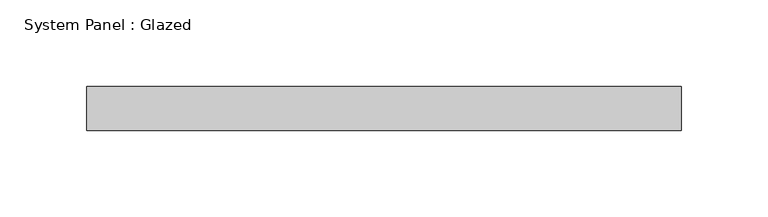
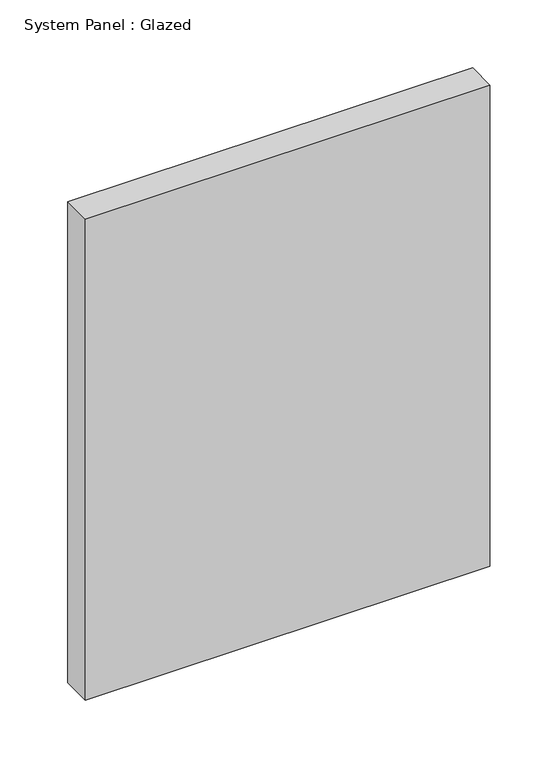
"""IFC4 building model written with IfcOpenShell, lengths in millimetres: plate geometry, System Panel : Glazed."""

from ifc_helpers import new_model, si_unit, origin, origin_with_axes, place, context, project, spatial, polyline, outline, extrude, source, transform, mapped, element, save


def system_panel_glazed_8fab215f(model_context):
    return source(origin(), model_context, "Body", "SweptSolid", [
        extrude(outline(polyline([(171.864282, -44.45), (-171.864282, -44.45), (-171.864282, -19.05), (171.864282, -19.05), (171.864282, -44.45)])), origin_with_axes(), (0.0, 0.0, 1.0), 431.8),
    ])


if __name__ == "__main__":
    model = new_model("IFC4")
    model_context = context("Model", 3, world=origin())
    ifc_project = project(units=[si_unit("LENGTHUNIT", "METRE", prefix="MILLI")], contexts=[model_context])
    site = spatial("IfcSite", under=ifc_project)
    building = spatial("IfcBuilding", under=site)
    placement = place(None, origin())
    system_panel_glazed_shape = system_panel_glazed_8fab215f(model_context)
    element("IfcPlate", 1, ObjectType="System Panel : Glazed", at=placement, inside=building, context=model_context, shape_type="MappedRepresentation", body=[
        mapped(system_panel_glazed_shape, transform((0.0, 0.0, 0.0), x_axis=(1.0, 0.0, 0.0), y_axis=(0.0, 1.0, 0.0), z_axis=(0.0, 0.0, 1.0))),
    ])
    save(model, "model.ifc")
